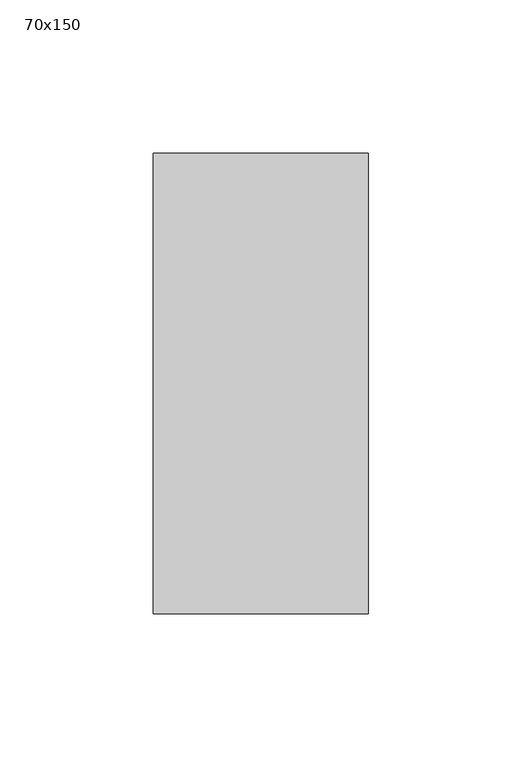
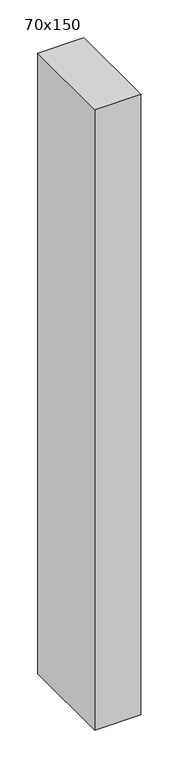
"""IFC4 building model written with IfcOpenShell, lengths in millimetres: member geometry, 長方形のマリオン : 70x150."""

from ifc_helpers import new_model, si_unit, frame, origin, place, context, project, spatial, polyline, outline, extrude, source, transform, mapped, element, save


def member_70x150_26475b18(model_context):
    return source(origin(), model_context, "Body", "SweptSolid", [
        extrude(outline(polyline([(35.0, 75.0), (35.0, -75.0), (-35.0, -75.0), (-35.0, 75.0), (35.0, 75.0)])), frame((0.0, 0.0, -1000.0), z_axis=(0.0, 0.0, 1.0), x_axis=(1.0, 0.0, 0.0)), (0.0, 0.0, 1.0), 1000.0),
    ])


if __name__ == "__main__":
    model = new_model("IFC4")
    model_context = context("Model", 3, world=origin())
    ifc_project = project(units=[si_unit("LENGTHUNIT", "METRE", prefix="MILLI")], contexts=[model_context])
    site = spatial("IfcSite", under=ifc_project)
    building = spatial("IfcBuilding", under=site)
    placement = place(None, origin())
    member_70x150_shape = member_70x150_26475b18(model_context)
    element("IfcMember", 1, ObjectType="長方形のマリオン : 70x150", at=placement, inside=building, context=model_context, shape_type="MappedRepresentation", body=[
        mapped(member_70x150_shape, transform((0.0, 0.0, 0.0), x_axis=(1.0, 0.0, 0.0), y_axis=(0.0, 1.0, 0.0), z_axis=(0.0, 0.0, 1.0))),
    ])
    save(model, "model.ifc")
